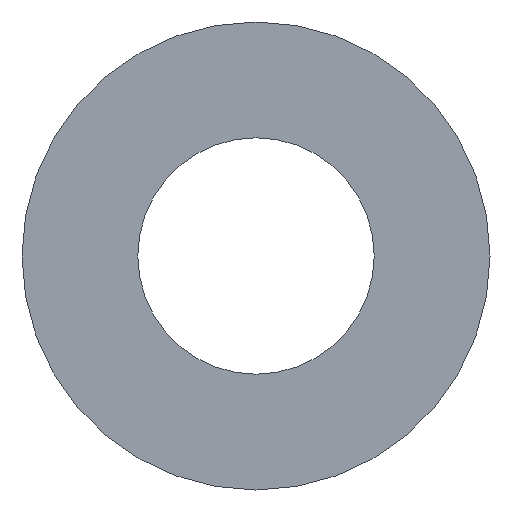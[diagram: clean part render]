
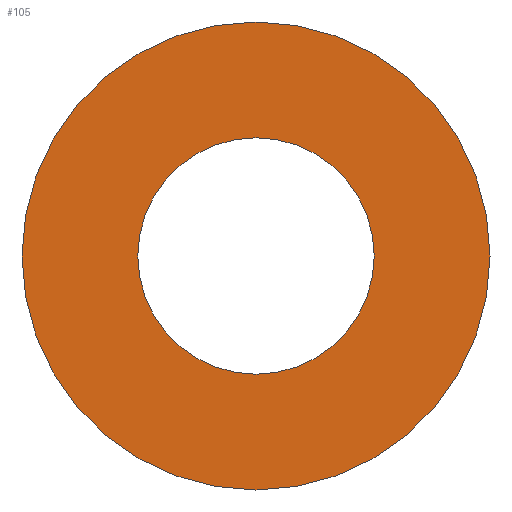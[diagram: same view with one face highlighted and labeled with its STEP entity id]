
A CAD part, front view. The second image highlights one B-rep face of the part: STEP entity #105.
In plain terms, the highlighted planar face has unit normal (0, -1, 0).
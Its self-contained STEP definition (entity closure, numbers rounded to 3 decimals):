
#21 = EDGE_CURVE('',#22,#22,#24,.T.);
#22 = VERTEX_POINT('',#23);
#23 = CARTESIAN_POINT('',(19.8,-46.,0.));
#24 = SURFACE_CURVE('',#25,(#30,#42),.PCURVE_S1.);
#25 = CIRCLE('',#26,19.8);
#26 = AXIS2_PLACEMENT_3D('',#27,#28,#29);
#27 = CARTESIAN_POINT('',(0.,-46.,0.));
#28 = DIRECTION('',(0.,-1.,0.));
#29 = DIRECTION('',(1.,0.,0.));
#30 = PCURVE('',#31,#36);
#31 = CYLINDRICAL_SURFACE('',#32,19.8);
#32 = AXIS2_PLACEMENT_3D('',#33,#34,#35);
#33 = CARTESIAN_POINT('',(0.,46.,0.));
#34 = DIRECTION('',(0.,-1.,0.));
#35 = DIRECTION('',(1.,0.,0.));
#36 = DEFINITIONAL_REPRESENTATION('',(#37),#41);
#37 = LINE('',#38,#39);
#38 = CARTESIAN_POINT('',(0.,92.));
#39 = VECTOR('',#40,1.);
#40 = DIRECTION('',(1.,0.));
#41 = ( GEOMETRIC_REPRESENTATION_CONTEXT(2) 
PARAMETRIC_REPRESENTATION_CONTEXT() REPRESENTATION_CONTEXT('2D SPACE',''
  ) );
#42 = PCURVE('',#43,#48);
#43 = PLANE('',#44);
#44 = AXIS2_PLACEMENT_3D('',#45,#46,#47);
#45 = CARTESIAN_POINT('',(0.,-46.,0.));
#46 = DIRECTION('',(0.,-1.,0.));
#47 = DIRECTION('',(1.,0.,0.));
#48 = DEFINITIONAL_REPRESENTATION('',(#49),#53);
#49 = CIRCLE('',#50,19.8);
#50 = AXIS2_PLACEMENT_2D('',#51,#52);
#51 = CARTESIAN_POINT('',(0.,0.));
#52 = DIRECTION('',(1.,0.));
#53 = ( GEOMETRIC_REPRESENTATION_CONTEXT(2) 
PARAMETRIC_REPRESENTATION_CONTEXT() REPRESENTATION_CONTEXT('2D SPACE',''
  ) );
#105 = ADVANCED_FACE('',(#106,#109),#43,.T.);
#106 = FACE_BOUND('',#107,.T.);
#107 = EDGE_LOOP('',(#108));
#108 = ORIENTED_EDGE('',*,*,#21,.T.);
#109 = FACE_BOUND('',#110,.T.);
#110 = EDGE_LOOP('',(#111));
#111 = ORIENTED_EDGE('',*,*,#112,.F.);
#112 = EDGE_CURVE('',#113,#113,#115,.T.);
#113 = VERTEX_POINT('',#114);
#114 = CARTESIAN_POINT('',(10.,-46.,0.));
#115 = SURFACE_CURVE('',#116,(#121,#128),.PCURVE_S1.);
#116 = CIRCLE('',#117,10.);
#117 = AXIS2_PLACEMENT_3D('',#118,#119,#120);
#118 = CARTESIAN_POINT('',(0.,-46.,0.));
#119 = DIRECTION('',(0.,-1.,0.));
#120 = DIRECTION('',(1.,0.,0.));
#121 = PCURVE('',#43,#122);
#122 = DEFINITIONAL_REPRESENTATION('',(#123),#127);
#123 = CIRCLE('',#124,10.);
#124 = AXIS2_PLACEMENT_2D('',#125,#126);
#125 = CARTESIAN_POINT('',(0.,0.));
#126 = DIRECTION('',(1.,0.));
#127 = ( GEOMETRIC_REPRESENTATION_CONTEXT(2) 
PARAMETRIC_REPRESENTATION_CONTEXT() REPRESENTATION_CONTEXT('2D SPACE',''
  ) );
#128 = PCURVE('',#129,#134);
#129 = CYLINDRICAL_SURFACE('',#130,10.);
#130 = AXIS2_PLACEMENT_3D('',#131,#132,#133);
#131 = CARTESIAN_POINT('',(0.,47.,0.));
#132 = DIRECTION('',(0.,-1.,0.));
#133 = DIRECTION('',(1.,0.,0.));
#134 = DEFINITIONAL_REPRESENTATION('',(#135),#139);
#135 = LINE('',#136,#137);
#136 = CARTESIAN_POINT('',(0.,93.));
#137 = VECTOR('',#138,1.);
#138 = DIRECTION('',(1.,0.));
#139 = ( GEOMETRIC_REPRESENTATION_CONTEXT(2) 
PARAMETRIC_REPRESENTATION_CONTEXT() REPRESENTATION_CONTEXT('2D SPACE',''
  ) );
